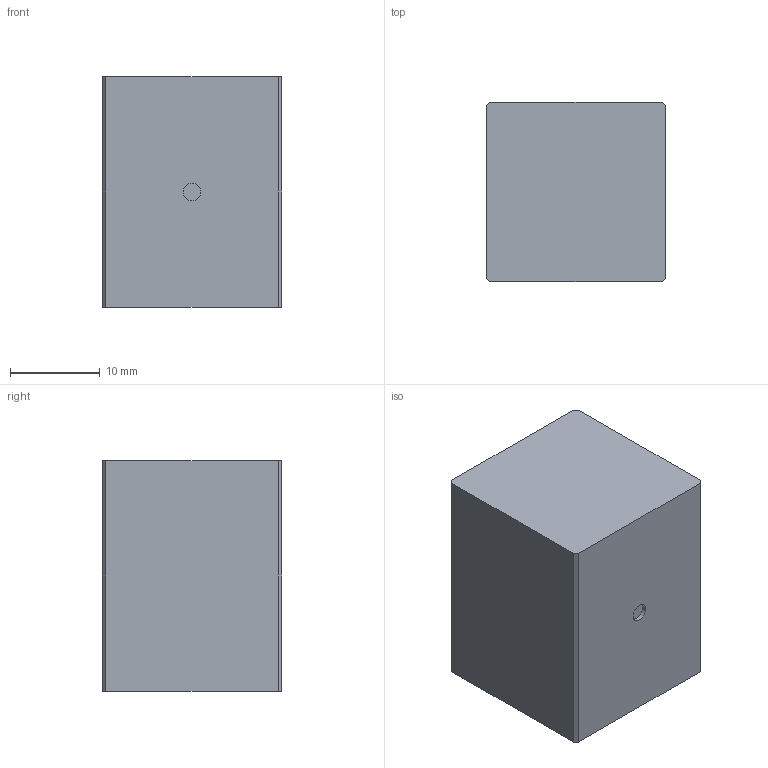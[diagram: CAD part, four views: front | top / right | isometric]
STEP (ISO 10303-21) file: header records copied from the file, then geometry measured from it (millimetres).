
FILE_DESCRIPTION(('Open CASCADE Model'),'2;1');
FILE_NAME('Open CASCADE Shape Model','2026-08-23T08:04:36',('Author'),( 'Open CASCADE'),'Open CASCADE STEP processor 7.9','Open CASCADE 7.9' ,'Unknown');
FILE_SCHEMA(('AUTOMOTIVE_DESIGN { 1 0 10303 214 1 1 1 1 }'));
Length unit declared in the file: millimetre
Products named in the file (2): =>[0:1:1:2]; COMPOUND
Assembly tree (1 placements, depth 2):
  =>[0:1:1:2]
    COMPOUND
Bounding box: 20 x 20 x 25.75 mm (x, y, z)
Volume: 10290.2 mm3; surface area: 2838.4 mm2
Topology: 1 solids, 1 shells, 12 faces, 27 edges, 18 vertices
Faces by surface type: plane 11, cylinder 1
Full cylindrical faces by diameter (mm): 2 x1
Entity records: 731 total; most frequent: CARTESIAN_POINT 119, DIRECTION 110, LINE 77, VECTOR 77, ORIENTED_EDGE 54, PCURVE 54, DEFINITIONAL_REPRESENTATION 54, EDGE_CURVE 27
